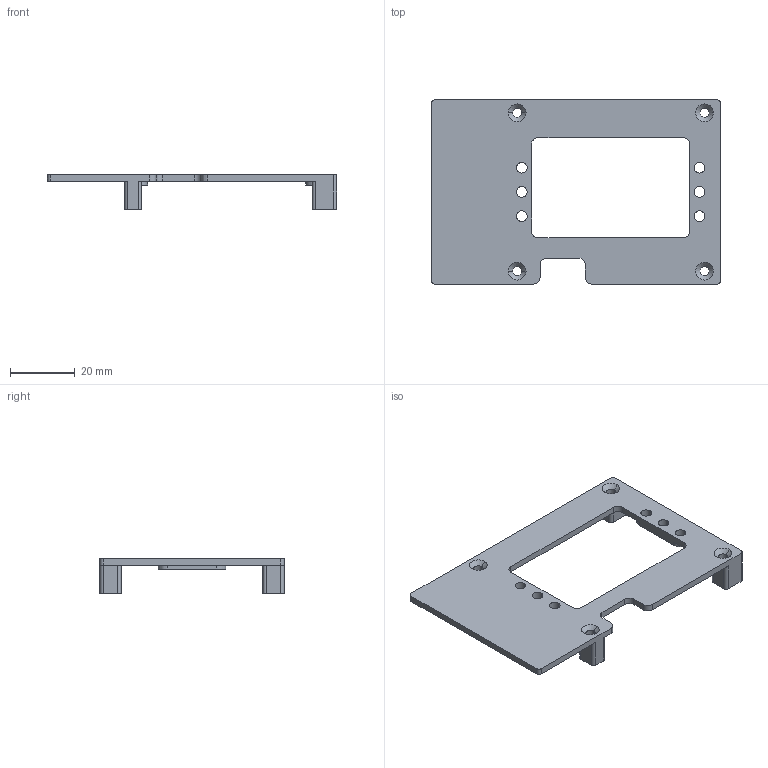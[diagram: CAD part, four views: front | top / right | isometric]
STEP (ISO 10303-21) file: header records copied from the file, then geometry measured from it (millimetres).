
FILE_DESCRIPTION (( 'STEP AP214' ), '1' );
FILE_NAME ('LubanCat 4-菁裔-20250414.STEP', '2025-04-14T03:00:33', ( '' ), ( '' ), 'SwSTEP 2.0', 'SolidWorks 2023', '' );
FILE_SCHEMA (( 'AUTOMOTIVE_DESIGN' ));
Length unit declared in the file: millimetre
Products named in the file (1): LubanCat 4-底盖-20250414
Bounding box: 89.47 x 57 x 10.7 mm (x, y, z)
Volume: 8182.6 mm3; surface area: 9247.2 mm2
Topology: 1 solids, 1 shells, 98 faces, 280 edges, 184 vertices
Faces by surface type: cylinder 54, plane 36, cone 8
Entity records: 3303 total; most frequent: DIRECTION 594, CARTESIAN_POINT 563, ORIENTED_EDGE 560, EDGE_CURVE 280, AXIS2_PLACEMENT_3D 215, VERTEX_POINT 184, VECTOR 164, LINE 164
